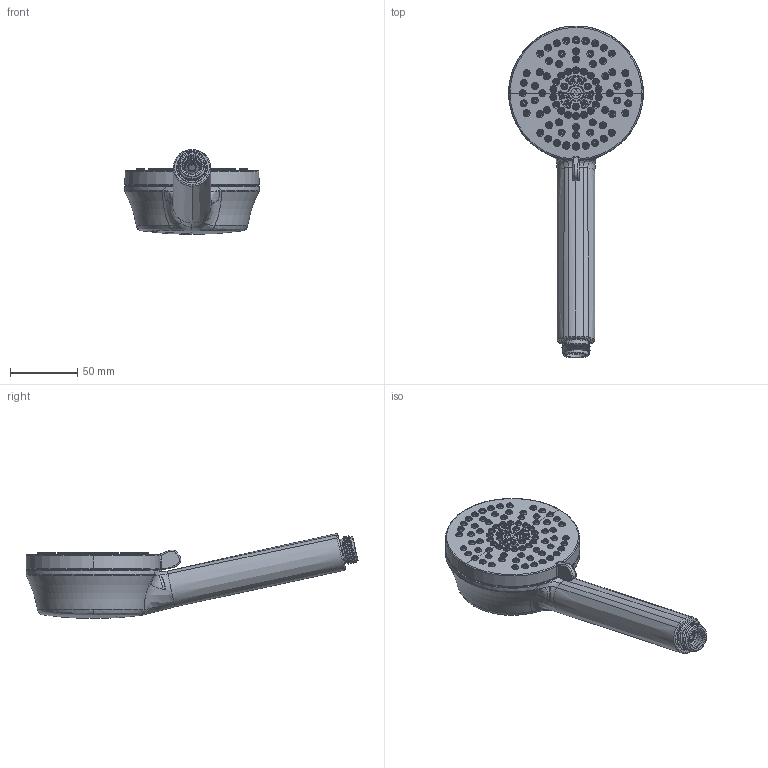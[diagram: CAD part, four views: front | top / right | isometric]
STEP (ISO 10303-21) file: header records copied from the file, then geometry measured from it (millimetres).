
FILE_DESCRIPTION (( 'STEP AP214' ), '1' );
FILE_NAME ('592W.STEP', '2025-01-03T05:41:28', ( '' ), ( '' ), 'SwSTEP 2.0', 'SolidWorks 2023', '' );
FILE_SCHEMA (( 'AUTOMOTIVE_DESIGN' ));
Length unit declared in the file: inch
Products named in the file (1): 592W
Bounding box: 100 x 247.08 x 63.19 mm (x, y, z)
Surface area: 52565.7 mm2 (no closed solid volume)
Topology: 0 solids, 120 shells, 1078 faces, 3291 edges, 2304 vertices
Faces by surface type: bspline 502, cone 379, plane 102, torus 53, cylinder 22, sphere 20
Entity records: 166962 total; most frequent: CARTESIAN_POINT 142856, ORIENTED_EDGE 5184, DIRECTION 3433, EDGE_CURVE 3291, VERTEX_POINT 2304, B_SPLINE_CURVE_WITH_KNOTS 1823, AXIS2_PLACEMENT_3D 1394, EDGE_LOOP 1344
